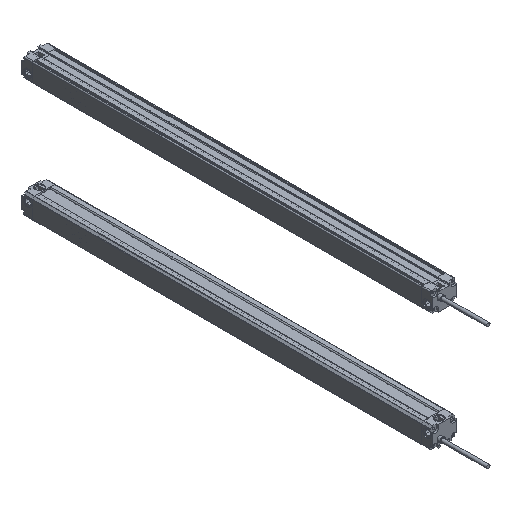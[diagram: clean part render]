
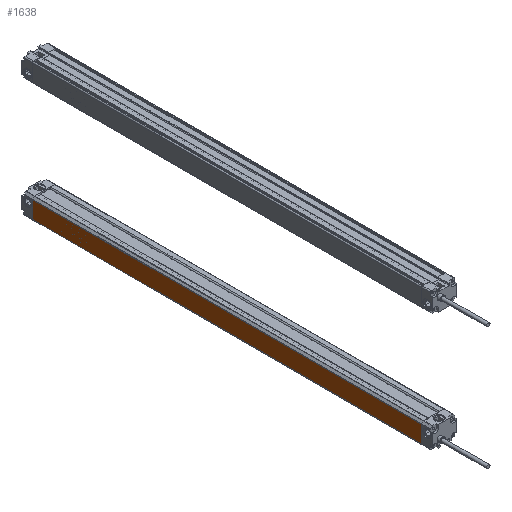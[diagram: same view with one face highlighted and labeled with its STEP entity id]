
A CAD part, isometric view. The second image highlights one B-rep face of the part: STEP entity #1638.
In plain terms, the highlighted planar face has unit normal (-1, 0, 0).
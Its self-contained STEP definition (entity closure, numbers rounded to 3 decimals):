
#347 = EDGE_CURVE ( 'NONE', #813, #3324, #4049, .T. ) ;
#715 = DIRECTION ( 'NONE',  ( -1., 0., 0. ) ) ;
#813 = VERTEX_POINT ( 'NONE', #8549 ) ;
#1338 = LINE ( 'NONE', #1854, #10180 ) ;
#1638 = ADVANCED_FACE ( 'NONE', ( #4945 ), #8244, .T. ) ;
#1854 = CARTESIAN_POINT ( 'NONE',  ( -12.5, -400., -9.2 ) ) ;
#1978 = VERTEX_POINT ( 'NONE', #8803 ) ;
#2380 = CARTESIAN_POINT ( 'NONE',  ( -12.5, 0., 8.293 ) ) ;
#2814 = CARTESIAN_POINT ( 'NONE',  ( -12.5, -400., -9.2 ) ) ;
#2887 = ORIENTED_EDGE ( 'NONE', *, *, #4218, .F. ) ;
#2993 = LINE ( 'NONE', #9603, #6930 ) ;
#3324 = VERTEX_POINT ( 'NONE', #2380 ) ;
#4049 = LINE ( 'NONE', #9440, #7089 ) ;
#4218 = EDGE_CURVE ( 'NONE', #10322, #1978, #1338, .T. ) ;
#4411 = EDGE_CURVE ( 'NONE', #1978, #3324, #2993, .T. ) ;
#4945 = FACE_OUTER_BOUND ( 'NONE', #7720, .T. ) ;
#5692 = ORIENTED_EDGE ( 'NONE', *, *, #4411, .F. ) ;
#6214 = ORIENTED_EDGE ( 'NONE', *, *, #8526, .T. ) ;
#6806 = CARTESIAN_POINT ( 'NONE',  ( -12.5, -400., -9.2 ) ) ;
#6891 = DIRECTION ( 'NONE',  ( 0., 1., 0. ) ) ;
#6930 = VECTOR ( 'NONE', #7950, 1000. ) ;
#7089 = VECTOR ( 'NONE', #6891, 1000. ) ;
#7471 = DIRECTION ( 'NONE',  ( 0., 0., 1. ) ) ;
#7720 = EDGE_LOOP ( 'NONE', ( #5692, #2887, #6214, #7945 ) ) ;
#7945 = ORIENTED_EDGE ( 'NONE', *, *, #347, .T. ) ;
#7950 = DIRECTION ( 'NONE',  ( 0., 0., 1. ) ) ;
#8244 = PLANE ( 'NONE',  #9439 ) ;
#8526 = EDGE_CURVE ( 'NONE', #10322, #813, #10817, .T. ) ;
#8549 = CARTESIAN_POINT ( 'NONE',  ( -12.5, -400., 8.293 ) ) ;
#8803 = CARTESIAN_POINT ( 'NONE',  ( -12.5, 0., -9.2 ) ) ;
#9439 = AXIS2_PLACEMENT_3D ( 'NONE', #10812, #715, #7471 ) ;
#9440 = CARTESIAN_POINT ( 'NONE',  ( -12.5, -400., 8.293 ) ) ;
#9528 = DIRECTION ( 'NONE',  ( 0., 1., 0. ) ) ;
#9598 = DIRECTION ( 'NONE',  ( 0., 0., 1. ) ) ;
#9603 = CARTESIAN_POINT ( 'NONE',  ( -12.5, 0., -9.2 ) ) ;
#10045 = VECTOR ( 'NONE', #9598, 1000. ) ;
#10180 = VECTOR ( 'NONE', #9528, 1000. ) ;
#10322 = VERTEX_POINT ( 'NONE', #6806 ) ;
#10812 = CARTESIAN_POINT ( 'NONE',  ( -12.5, -400., -9.2 ) ) ;
#10817 = LINE ( 'NONE', #2814, #10045 ) ;
